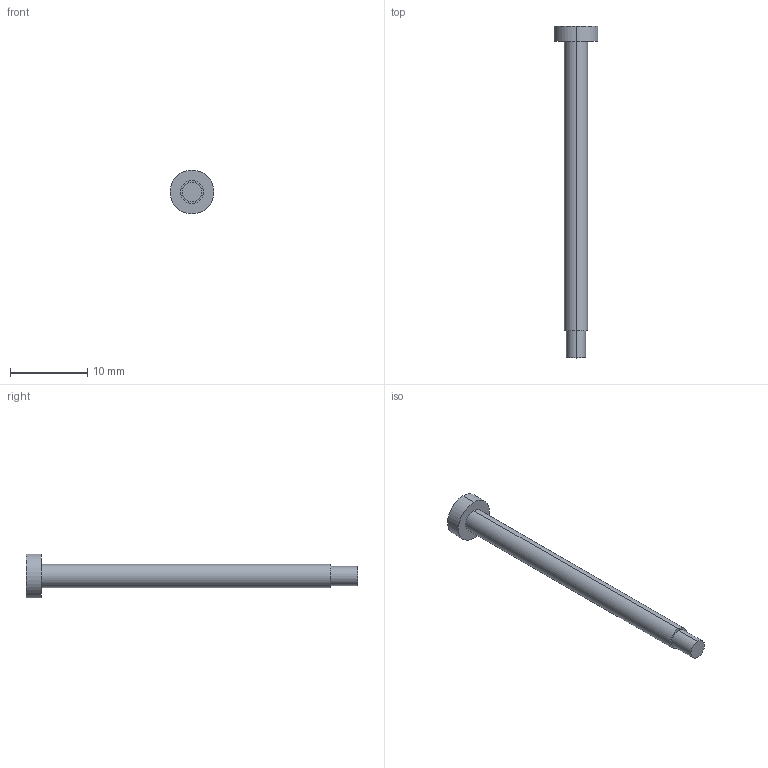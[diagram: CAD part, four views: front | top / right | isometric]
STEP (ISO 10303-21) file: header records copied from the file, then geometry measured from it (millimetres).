
FILE_DESCRIPTION(('Open CASCADE Model'),'2;1');
FILE_NAME('rear-pivot-shoulder-bolt-d3-l37p55-m2p5.step', '2026-11-14T14:32:01',('Author'),('Open CASCADE'), 'Open CASCADE STEP processor 8.0','Open CASCADE 8.0','Unknown');
FILE_SCHEMA(('AP242_MANAGED_MODEL_BASED_3D_ENGINEERING_MIM_LF {1 0 10303 442 1 1 4 }' ));
Length unit declared in the file: millimetre
Products named in the file (1): Rear Pivot Shoulder Bolt D3 L37p55 M2p5
Bounding box: 5.7 x 43.1 x 5.7 mm (x, y, z)
Volume: 329.7 mm3; surface area: 476.9 mm2
Topology: 1 solids, 1 shells, 17 faces, 36 edges, 24 vertices
Faces by surface type: plane 11, cylinder 6
Entity records: 958 total; most frequent: CARTESIAN_POINT 186, DIRECTION 150, LINE 84, VECTOR 84, ORIENTED_EDGE 72, PCURVE 72, DEFINITIONAL_REPRESENTATION 72, EDGE_CURVE 36
